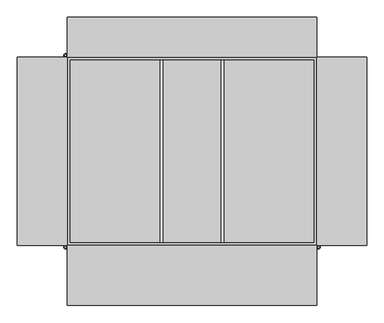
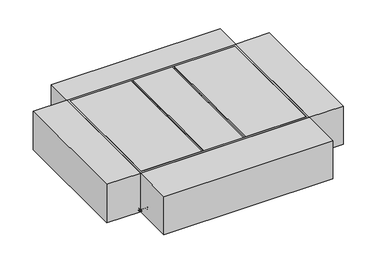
"""IFC4 building model written with IfcOpenShell, lengths in millimetres: proxy geometry, EMC_VEN_CLEVA 2.0_Right_V2 : CLEVA 4000 2.0 Right."""

from ifc_helpers import new_model, si_unit, frame, origin, origin_with_axes, place, context, project, spatial, polyline, circle_curve, ellipse_curve, outline, extrude, faceted_brep, source, transform, mapped, element, save
from ifc_brep_helpers import plane_surface, cylinder_surface, revolved_surface, advanced_brep


def mechanical_equipment_7009f9f1(model_context):
    return source(origin(), model_context, "Body", "SolidModel", [
        advanced_brep(
        [(-1255.9879885, 830.1499884, 32.4276212), (-1274.1500152, 830.1499884, 32.4276212), (-1274.1500152, 830.1499884, 29.4276272), (-1255.9939883, 830.1499884, 29.4276272), (-1252.999994, 830.1499884, 26.4336329), (-1252.999994, 830.1499884, 2.850007), (-1246.9879811, 830.1499884, -3.149981), (-1223.0023908, 830.1499884, -3.149981), (-1223.0023908, 830.1499884, -0.149987), (-1247.9960038, 830.1499884, -0.149987), (-1250.0, 830.1499884, 1.8540092), (-1250.0, 830.1499884, 26.4156337), (-1286.1499912, 842.1499898, 29.4276272), (-1286.1499912, 842.1499898, 32.4276212), (-1286.1499912, 969.1499898, 32.4276212), (-1286.1499912, 969.1499898, 29.4276272), (-1135.1500138, 950.9879885, 32.4276212), (-1135.1500138, 969.1499898, 32.4276212), (-1147.1500152, 981.1499912, 32.4276212), (-1274.1500152, 981.1499912, 32.4276212), (-1255.9879885, 950.9879885, 32.4276212), (-1160.6500136, 972.6500082, 32.4276212), (-1155.6499982, 972.6500082, 32.4276212), (-1155.6619977, 960.6500068, 32.4276212), (-1160.6380141, 960.6500068, 32.4276212), (-1269.8972231, 968.4322052, 32.4276212), (-1261.4119618, 959.9469136, 32.4276212), (-1264.9515195, 956.4073559, 32.4276212), (-1273.4413867, 964.888067, 32.4276212), (-1265.6500068, 855.6379887, 32.4276212), (-1265.6500068, 850.6379987, 32.4276212), (-1277.6499948, 850.6499982, 32.4276212), (-1277.6500082, 855.6499882, 32.4276212), (-1250.0, 945.0, 26.4156337), (-1250.0, 945.0, 1.8540092), (-1247.9960038, 942.9960038, -0.149987), (-1223.0023908, 918.0023908, -0.149987), (-1135.1500138, 918.0023908, -0.149987), (-1135.1500138, 942.9960038, -0.149987), (-1223.0023908, 918.0023908, -3.149981), (-1246.9879811, 941.9879811, -3.149981), (-1135.1500138, 941.9879811, -3.149981), (-1135.1500138, 918.0023908, -3.149981), (-1252.9999806, 947.999994, 2.850007), (-1252.999994, 947.999994, 26.4336329), (-1255.9939883, 950.9939883, 29.4276272), (-1274.1500152, 981.1499912, 29.4276272), (-1147.1500152, 981.1499912, 29.4276272), (-1135.1500138, 969.1499898, 29.4276272), (-1135.1500138, 950.9939883, 29.4276272), (-1160.6380141, 960.6500068, 29.4276272), (-1155.6619977, 960.6500068, 29.4276272), (-1155.6499982, 972.6499948, 29.4276272), (-1160.6500136, 972.6500082, 29.4276272), (-1273.4413867, 964.888067, 29.4276272), (-1264.9515297, 956.4073661, 29.4276272), (-1261.4119618, 959.9469136, 29.4276272), (-1269.8972231, 968.4322052, 29.4276272), (-1277.6500082, 855.6499882, 29.4276272), (-1277.6500082, 850.6499982, 29.4276272), (-1265.6500068, 850.6379987, 29.4276272), (-1265.6500068, 855.6379887, 29.4276272), (-1135.1500138, 947.9999806, 2.850007), (-1135.1500138, 947.999994, 26.4336329), (-1135.1500138, 945.0, 26.4156337), (-1135.1500138, 945.0, 1.8540092)],
        [
            (0, 1),
            (1, 2),
            (2, 3),
            (3, 4, circle_curve(frame((-1255.999988, 830.1499884, 26.4276332), z_axis=(0.0, 1.0, 0.0), x_axis=(1.0, 0.0, 0.0)), 3.0)),
            (4, 5),
            (5, 6, circle_curve(frame((-1246.9999806, 830.1499884, 2.850007), z_axis=(0.0, -1.0, 0.0), x_axis=(1.0, 0.0, 0.0)), 6.0)),
            (6, 7),
            (7, 8),
            (8, 9),
            (9, 10, circle_curve(frame((-1248.000004, 830.1499884, 1.850009), z_axis=(0.0, 1.0, 0.0), x_axis=(1.0, 0.0, 0.0)), 2.0)),
            (10, 11),
            (11, 0, circle_curve(frame((-1255.999988, 830.1499884, 26.4276332), z_axis=(0.0, -1.0, 0.0), x_axis=(1.0, 0.0, 0.0)), 6.0)),
            (12, 13),
            (13, 14),
            (14, 15),
            (15, 12),
            (16, 17),
            (17, 18),
            (18, 19),
            (19, 14),
            (13, 1),
            (0, 20),
            (20, 16),
            (21, 22),
            (22, 23, circle_curve(frame((-1155.6499982, 966.6499948, 32.4276212), z_axis=(0.0, 0.0, -1.0), x_axis=(1.0, 0.0, 0.0)), 6.0)),
            (23, 24),
            (24, 21, circle_curve(frame((-1160.6500136, 966.6499948, 32.4276212), z_axis=(0.0, 0.0, -1.0), x_axis=(1.0, 0.0, 0.0)), 6.0)),
            (25, 26, circle_curve(frame((-1265.6500068, 964.194145, 32.4276212), z_axis=(0.0, 0.0, -1.0), x_axis=(1.0, 0.0, 0.0)), 6.0)),
            (26, 27),
            (27, 28, circle_curve(frame((-1269.1941704, 960.6500068, 32.4276212), z_axis=(0.0, 0.0, -1.0), x_axis=(1.0, 0.0, 0.0)), 6.0)),
            (28, 25),
            (29, 30),
            (30, 31, circle_curve(frame((-1271.6499948, 850.6499982, 32.4276212), z_axis=(0.0, 0.0, -1.0), x_axis=(1.0, 0.0, 0.0)), 6.0)),
            (31, 32),
            (32, 29, circle_curve(frame((-1271.6499948, 855.6499882, 32.4276212), z_axis=(0.0, 0.0, -1.0), x_axis=(1.0, 0.0, 0.0)), 6.0)),
            (11, 33),
            (33, 20, ellipse_curve(frame((-1255.999988, 950.999988, 26.4276332), z_axis=(-0.7071067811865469, -0.707106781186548, 0.0), x_axis=(0.7071067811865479, -0.7071067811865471, 0.0)), 8.4852814, 6.0)),
            (10, 34),
            (34, 33),
            (9, 35),
            (35, 34, ellipse_curve(frame((-1248.000004, 943.000004, 1.850009), z_axis=(0.7071067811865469, 0.707106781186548, 0.0), x_axis=(-0.7071067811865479, 0.7071067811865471, 0.0)), 2.8284271, 2.0)),
            (8, 36),
            (36, 37),
            (37, 38),
            (38, 35),
            (7, 39),
            (39, 36),
            (6, 40),
            (40, 41),
            (41, 42),
            (42, 39),
            (5, 43),
            (43, 40, ellipse_curve(frame((-1246.9999806, 941.9999806, 2.850007), z_axis=(-0.7071067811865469, -0.707106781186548, 0.0), x_axis=(0.7071067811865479, -0.7071067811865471, 0.0)), 8.4852814, 6.0)),
            (4, 44),
            (44, 43),
            (3, 45),
            (45, 44, ellipse_curve(frame((-1255.999988, 950.999988, 26.4276332), z_axis=(0.7071067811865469, 0.707106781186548, 0.0), x_axis=(-0.7071067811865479, 0.7071067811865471, 0.0)), 4.2426407, 3.0)),
            (2, 12),
            (15, 46),
            (46, 47),
            (47, 48),
            (48, 49),
            (49, 45),
            (50, 51),
            (51, 52, circle_curve(frame((-1155.6499982, 966.6499948, 29.4276272), z_axis=(0.0, 0.0, 1.0), x_axis=(1.0, 0.0, 0.0)), 6.0)),
            (52, 53),
            (53, 50, circle_curve(frame((-1160.6500136, 966.6499948, 29.4276272), z_axis=(0.0, 0.0, 1.0), x_axis=(1.0, 0.0, 0.0)), 6.0)),
            (54, 55, circle_curve(frame((-1269.1941704, 960.6500068, 29.4276272), z_axis=(0.0, 0.0, 1.0), x_axis=(1.0, 0.0, 0.0)), 6.0)),
            (55, 56),
            (56, 57, circle_curve(frame((-1265.6500068, 964.194145, 29.4276272), z_axis=(0.0, 0.0, 1.0), x_axis=(1.0, 0.0, 0.0)), 6.0)),
            (57, 54),
            (58, 59),
            (59, 60, circle_curve(frame((-1271.6499948, 850.6499982, 29.4276272), z_axis=(0.0, 0.0, 1.0), x_axis=(1.0, 0.0, 0.0)), 6.0)),
            (60, 61),
            (61, 58, circle_curve(frame((-1271.6499948, 855.6499882, 29.4276272), z_axis=(0.0, 0.0, 1.0), x_axis=(1.0, 0.0, 0.0)), 6.0)),
            (37, 42),
            (41, 62, circle_curve(frame((-1135.1500138, 941.9999806, 2.850007), z_axis=(1.0, 0.0, 0.0), x_axis=(0.0, -1.0, 0.0)), 6.0)),
            (62, 63),
            (63, 49, circle_curve(frame((-1135.1500138, 950.999988, 26.4276332), z_axis=(-1.0, 0.0, 0.0), x_axis=(0.0, -1.0, 0.0)), 3.0)),
            (48, 17),
            (16, 64, circle_curve(frame((-1135.1500138, 950.999988, 26.4276332), z_axis=(1.0, 0.0, 0.0), x_axis=(0.0, -1.0, 0.0)), 6.0)),
            (64, 65),
            (65, 38, circle_curve(frame((-1135.1500138, 943.000004, 1.850009), z_axis=(-1.0, 0.0, 0.0), x_axis=(0.0, -1.0, 0.0)), 2.0)),
            (18, 47),
            (46, 19),
            (33, 64),
            (34, 65),
            (43, 62),
            (44, 63),
            (53, 21),
            (24, 50),
            (52, 22),
            (51, 23),
            (57, 25),
            (28, 54),
            (56, 26),
            (55, 27),
            (61, 29),
            (32, 58),
            (60, 30),
            (59, 31),
        ],
        [
            plane_surface(frame((-1250.0, 830.1499884, 0.0), z_axis=(0.0, -1.0, 0.0), x_axis=(0.0, 0.0, 1.0))),
            plane_surface(frame((-1286.1499912, 830.1499884, 29.4276272), z_axis=(-1.0, 0.0, 0.0), x_axis=(0.0, 1.0, 0.0))),
            plane_surface(frame((-1286.1499912, 830.1499884, 32.4276212), z_axis=(0.0, 0.0, 1.0), x_axis=(0.0, 1.0, 0.0))),
            cylinder_surface(frame((-1255.999988, 830.1499884, 26.4276332), z_axis=(0.0, -1.0, 0.0), x_axis=(1.0, 0.0, 0.0)), 6.0),
            plane_surface(frame((-1250.0, 830.1499884, 26.4156337), z_axis=(1.0, 0.0, 0.0), x_axis=(0.0, 1.0, 0.0))),
            revolved_surface(polyline([(-1246.000004, 945.0000039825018, 1.850009), (-1246.000004, 830.1499884, 1.850009)]), (-1248.000004, 830.1499884, 1.850009), (0.0, 1.0, 0.0)),
            plane_surface(frame((-1247.9960038, 830.1499884, -0.149987), z_axis=(0.0, 0.0, 1.0), x_axis=(0.0, 1.0, 0.0))),
            plane_surface(frame((-1223.0023908, 830.1499884, -0.149987), z_axis=(1.0, 0.0, 0.0), x_axis=(0.0, 1.0, 0.0))),
            plane_surface(frame((-1223.0023908, 830.1499884, -3.149981), z_axis=(0.0, 0.0, -1.0), x_axis=(0.0, 1.0, 0.0))),
            cylinder_surface(frame((-1246.9999806, 830.1499884, 2.850007), z_axis=(0.0, -1.0, 0.0), x_axis=(1.0, 0.0, 0.0)), 6.0),
            plane_surface(frame((-1252.999994, 830.1499884, 2.850007), z_axis=(-1.0, 0.0, 0.0), x_axis=(0.0, 1.0, 0.0))),
            revolved_surface(polyline([(-1252.999988, 953.999988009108, 26.4276332), (-1252.999988, 830.1499884, 26.4276332)]), (-1255.999988, 830.1499884, 26.4276332), (0.0, 1.0, 0.0)),
            plane_surface(frame((-1255.9939883, 830.1499884, 29.4276272), z_axis=(0.0, 0.0, -1.0), x_axis=(0.0, 1.0, 0.0))),
            plane_surface(frame((-1135.1500138, 945.0, 0.0), z_axis=(1.0, 0.0, 0.0), x_axis=(0.0, 0.0, 1.0))),
            plane_surface(frame((-1286.1499912, 981.1499912, 29.4276272), z_axis=(0.0, 1.0, 0.0), x_axis=(1.0, 0.0, 0.0))),
            cylinder_surface(frame((-1250.0, 950.999988, 26.4276332), z_axis=(-1.0, 0.0, 0.0), x_axis=(0.0, -1.0, 0.0)), 6.0),
            plane_surface(frame((-1250.0, 945.0, 26.4156337), z_axis=(0.0, -1.0, 0.0), x_axis=(1.0, 0.0, 0.0))),
            revolved_surface(polyline([(-1135.1500138, 941.000004, 1.850009), (-1250.0000039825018, 941.000004, 1.850009)]), (-1250.0, 943.000004, 1.850009), (1.0, 0.0, 0.0)),
            plane_surface(frame((-1223.0023908, 918.0023908, -0.149987), z_axis=(0.0, -1.0, 0.0), x_axis=(1.0, 0.0, 0.0))),
            cylinder_surface(frame((-1250.0, 941.9999806, 2.850007), z_axis=(-1.0, 0.0, 0.0), x_axis=(0.0, -1.0, 0.0)), 6.0),
            plane_surface(frame((-1252.999994, 947.999994, 2.850007), z_axis=(0.0, 1.0, 0.0), x_axis=(1.0, 0.0, 0.0))),
            revolved_surface(polyline([(-1135.1500138, 947.999988, 26.4276332), (-1258.9999880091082, 947.999988, 26.4276332)]), (-1250.0, 950.999988, 26.4276332), (1.0, 0.0, 0.0)),
            plane_surface(frame((-1286.1499912, 842.1499898, 250.0), z_axis=(-0.7071075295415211, -0.7071060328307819, 0.0), x_axis=(0.0, 0.0, -1.0))),
            plane_surface(frame((-1123.432152, 957.432128, 250.0), z_axis=(0.7071067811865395, 0.7071067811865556, 0.0), x_axis=(0.0, 0.0, -1.0))),
            plane_surface(frame((-1274.1500152, 981.1499912, 250.0), z_axis=(-0.7071075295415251, 0.7071060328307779, 0.0), x_axis=(0.0, 0.0, -1.0))),
            revolved_surface(polyline([(-1154.6500136, 966.6499948, 32.4276212), (-1154.6500136, 966.6499948, 29.4276272)]), (-1160.6500136, 966.6499948, 0.0), (0.0, 0.0, 1.0)),
            plane_surface(frame((-1160.6500136, 972.6500082, 250.0), z_axis=(0.0, -1.0, 0.0), x_axis=(0.0, 0.0, -1.0))),
            revolved_surface(polyline([(-1149.6499982, 966.6499948, 32.4276212), (-1149.6499982, 966.6499948, 29.4276272)]), (-1155.6499982, 966.6499948, 0.0), (0.0, 0.0, 1.0)),
            plane_surface(frame((-1155.6619977, 960.6500068, 250.0), z_axis=(0.0, 1.0, 0.0), x_axis=(0.0, 0.0, -1.0))),
            plane_surface(frame((-1273.4413867, 964.888067, 250.0), z_axis=(0.7071042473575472, -0.7071093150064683, 0.0), x_axis=(0.0, 0.0, -1.0))),
            revolved_surface(polyline([(-1259.6500068, 964.194145, 32.4276212), (-1259.6500068, 964.194145, 29.4276272)]), (-1265.6500068, 964.194145, 0.0), (0.0, 0.0, 1.0)),
            plane_surface(frame((-1261.4119618, 959.9469136, 250.0), z_axis=(-0.7071067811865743, 0.7071067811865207, 0.0), x_axis=(0.0, 0.0, -1.0))),
            revolved_surface(polyline([(-1263.1941704, 960.6500068, 32.4276212), (-1263.1941704, 960.6500068, 29.4276272)]), (-1269.1941704, 960.6500068, 0.0), (0.0, 0.0, 1.0)),
            revolved_surface(polyline([(-1265.6499948, 855.6499882, 32.4276212), (-1265.6499948, 855.6499882, 29.4276272)]), (-1271.6499948, 855.6499882, 0.0), (0.0, 0.0, 1.0)),
            plane_surface(frame((-1265.6500068, 855.6379887, 250.0), z_axis=(-1.0, 0.0, 0.0), x_axis=(0.0, 0.0, -1.0))),
            revolved_surface(polyline([(-1265.6499948, 850.6499982, 32.4276212), (-1265.6499948, 850.6499982, 29.4276272)]), (-1271.6499948, 850.6499982, 0.0), (0.0, 0.0, 1.0)),
            plane_surface(frame((-1277.6500082, 850.6499982, 250.0), z_axis=(1.0, 0.0, 0.0), x_axis=(0.0, 0.0, -1.0))),
        ],
        [
            (0, [[1, 2, 3, 4, 5, 6, 7, 8, 9, 10, 11, 12]]),
            (1, [[13, 14, 15, 16]]),
            (2, [[17, 18, 19, 20, -14, 21, -1, 22, 23], [24, 25, 26, 27], [28, 29, 30, 31], [32, 33, 34, 35]]),
            (3, [[36, 37, -22, -12]]),
            (4, [[38, 39, -36, -11]]),
            (5, [[40, 41, -38, -10]]),
            (6, [[42, 43, 44, 45, -40, -9]]),
            (7, [[46, 47, -42, -8]]),
            (8, [[48, 49, 50, 51, -46, -7]]),
            (9, [[52, 53, -48, -6]]),
            (10, [[54, 55, -52, -5]]),
            (11, [[56, 57, -54, -4]]),
            (12, [[-3, 58, -16, 59, 60, 61, 62, 63, -56], [64, 65, 66, 67], [68, 69, 70, 71], [72, 73, 74, 75]]),
            (13, [[76, -50, 77, 78, 79, -62, 80, -17, 81, 82, 83, -44]]),
            (14, [[84, -60, 85, -19]]),
            (15, [[-37, 86, -81, -23]]),
            (16, [[87, -82, -86, -39]]),
            (17, [[-45, -83, -87, -41]]),
            (18, [[-47, -51, -76, -43]]),
            (19, [[-53, 88, -77, -49]]),
            (20, [[89, -78, -88, -55]]),
            (21, [[-63, -79, -89, -57]]),
            (22, [[-21, -13, -58, -2]]),
            (23, [[-80, -61, -84, -18]]),
            (24, [[-20, -85, -59, -15]]),
            (25, [[-67, 90, -27, 91]]),
            (26, [[-66, 92, -24, -90]]),
            (27, [[-65, 93, -25, -92]]),
            (28, [[-26, -93, -64, -91]]),
            (29, [[-71, 94, -31, 95]]),
            (30, [[-70, 96, -28, -94]]),
            (31, [[-69, 97, -29, -96]]),
            (32, [[-30, -97, -68, -95]]),
            (33, [[-75, 98, -35, 99]]),
            (34, [[-74, 100, -32, -98]]),
            (35, [[-73, 101, -33, -100]]),
            (36, [[-34, -101, -72, -99]]),
        ],
    ),
        advanced_brep(
        [(1255.9879885, -830.1499884, 32.4276212), (1274.1500152, -830.1499884, 32.4276212), (1274.1500152, -830.1499884, 29.4276272), (1255.9939883, -830.1499884, 29.4276272), (1252.999994, -830.1499884, 26.4336329), (1252.999994, -830.1499884, 2.850007), (1246.9879811, -830.1499884, -3.149981), (1223.0023908, -830.1499884, -3.149981), (1223.0023908, -830.1499884, -0.149987), (1247.9960038, -830.1499884, -0.149987), (1250.0, -830.1499884, 1.8540092), (1250.0, -830.1499884, 26.4156337), (1286.1499912, -842.1499898, 29.4276272), (1286.1499912, -842.1499898, 32.4276212), (1286.1499912, -969.1499898, 32.4276212), (1286.1499912, -969.1499898, 29.4276272), (1135.1500138, -950.9879885, 32.4276212), (1135.1500138, -969.1499898, 32.4276212), (1147.1500152, -981.1499912, 32.4276212), (1274.1500152, -981.1499912, 32.4276212), (1255.9879885, -950.9879885, 32.4276212), (1160.6500136, -972.6500082, 32.4276212), (1155.6499982, -972.6500082, 32.4276212), (1155.6619977, -960.6500068, 32.4276212), (1160.6380141, -960.6500068, 32.4276212), (1269.8972231, -968.4322052, 32.4276212), (1261.4119618, -959.9469136, 32.4276212), (1264.9515195, -956.4073559, 32.4276212), (1273.4413867, -964.888067, 32.4276212), (1265.6500068, -855.6379887, 32.4276212), (1265.6500068, -850.6379987, 32.4276212), (1277.6499948, -850.6499982, 32.4276212), (1277.6500082, -855.6499882, 32.4276212), (1250.0, -945.0, 26.4156337), (1250.0, -945.0, 1.8540092), (1247.9960038, -942.9960038, -0.149987), (1223.0023908, -918.0023908, -0.149987), (1135.1500138, -918.0023908, -0.149987), (1135.1500138, -942.9960038, -0.149987), (1223.0023908, -918.0023908, -3.149981), (1246.9879811, -941.9879811, -3.149981), (1135.1500138, -941.9879811, -3.149981), (1135.1500138, -918.0023908, -3.149981), (1252.9999806, -947.999994, 2.850007), (1252.999994, -947.999994, 26.4336329), (1255.9939883, -950.9939883, 29.4276272), (1274.1500152, -981.1499912, 29.4276272), (1147.1500152, -981.1499912, 29.4276272), (1135.1500138, -969.1499898, 29.4276272), (1135.1500138, -950.9939883, 29.4276272), (1160.6380141, -960.6500068, 29.4276272), (1155.6619977, -960.6500068, 29.4276272), (1155.6499982, -972.6499948, 29.4276272), (1160.6500136, -972.6500082, 29.4276272), (1273.4413867, -964.888067, 29.4276272), (1264.9515297, -956.4073661, 29.4276272), (1261.4119618, -959.9469136, 29.4276272), (1269.8972231, -968.4322052, 29.4276272), (1277.6500082, -855.6499882, 29.4276272), (1277.6500082, -850.6499982, 29.4276272), (1265.6500068, -850.6379987, 29.4276272), (1265.6500068, -855.6379887, 29.4276272), (1135.1500138, -947.9999806, 2.850007), (1135.1500138, -947.999994, 26.4336329), (1135.1500138, -945.0, 26.4156337), (1135.1500138, -945.0, 1.8540092)],
        [
            (0, 1),
            (1, 2),
            (2, 3),
            (3, 4, circle_curve(frame((1255.999988, -830.1499884, 26.4276332), z_axis=(0.0, -1.0, 0.0), x_axis=(-1.0, 0.0, 0.0)), 3.0)),
            (4, 5),
            (5, 6, circle_curve(frame((1246.9999806, -830.1499884, 2.850007), z_axis=(0.0, 1.0, 0.0), x_axis=(-1.0, 0.0, 0.0)), 6.0)),
            (6, 7),
            (7, 8),
            (8, 9),
            (9, 10, circle_curve(frame((1248.000004, -830.1499884, 1.850009), z_axis=(0.0, -1.0, 0.0), x_axis=(-1.0, 0.0, 0.0)), 2.0)),
            (10, 11),
            (11, 0, circle_curve(frame((1255.999988, -830.1499884, 26.4276332), z_axis=(0.0, 1.0, 0.0), x_axis=(-1.0, 0.0, 0.0)), 6.0)),
            (12, 13),
            (13, 14),
            (14, 15),
            (15, 12),
            (16, 17),
            (17, 18),
            (18, 19),
            (19, 14),
            (13, 1),
            (0, 20),
            (20, 16),
            (21, 22),
            (22, 23, circle_curve(frame((1155.6499982, -966.6499948, 32.4276212), z_axis=(0.0, 0.0, -1.0), x_axis=(-1.0, 0.0, 0.0)), 6.0)),
            (23, 24),
            (24, 21, circle_curve(frame((1160.6500136, -966.6499948, 32.4276212), z_axis=(0.0, 0.0, -1.0), x_axis=(-1.0, 0.0, 0.0)), 6.0)),
            (25, 26, circle_curve(frame((1265.6500068, -964.194145, 32.4276212), z_axis=(0.0, 0.0, -1.0), x_axis=(-1.0, 0.0, 0.0)), 6.0)),
            (26, 27),
            (27, 28, circle_curve(frame((1269.1941704, -960.6500068, 32.4276212), z_axis=(0.0, 0.0, -1.0), x_axis=(-1.0, 0.0, 0.0)), 6.0)),
            (28, 25),
            (29, 30),
            (30, 31, circle_curve(frame((1271.6499948, -850.6499982, 32.4276212), z_axis=(0.0, 0.0, -1.0), x_axis=(-1.0, 0.0, 0.0)), 6.0)),
            (31, 32),
            (32, 29, circle_curve(frame((1271.6499948, -855.6499882, 32.4276212), z_axis=(0.0, 0.0, -1.0), x_axis=(-1.0, 0.0, 0.0)), 6.0)),
            (11, 33),
            (33, 20, ellipse_curve(frame((1255.999988, -950.999988, 26.4276332), z_axis=(0.7071067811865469, 0.707106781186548, 0.0), x_axis=(-0.7071067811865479, 0.7071067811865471, 0.0)), 8.4852814, 6.0)),
            (10, 34),
            (34, 33),
            (9, 35),
            (35, 34, ellipse_curve(frame((1248.000004, -943.000004, 1.850009), z_axis=(-0.7071067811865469, -0.707106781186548, 0.0), x_axis=(0.7071067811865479, -0.7071067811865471, 0.0)), 2.8284271, 2.0)),
            (8, 36),
            (36, 37),
            (37, 38),
            (38, 35),
            (7, 39),
            (39, 36),
            (6, 40),
            (40, 41),
            (41, 42),
            (42, 39),
            (5, 43),
            (43, 40, ellipse_curve(frame((1246.9999806, -941.9999806, 2.850007), z_axis=(0.7071067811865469, 0.707106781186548, 0.0), x_axis=(-0.7071067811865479, 0.7071067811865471, 0.0)), 8.4852814, 6.0)),
            (4, 44),
            (44, 43),
            (3, 45),
            (45, 44, ellipse_curve(frame((1255.999988, -950.999988, 26.4276332), z_axis=(-0.7071067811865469, -0.707106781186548, 0.0), x_axis=(0.7071067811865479, -0.7071067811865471, 0.0)), 4.2426407, 3.0)),
            (2, 12),
            (15, 46),
            (46, 47),
            (47, 48),
            (48, 49),
            (49, 45),
            (50, 51),
            (51, 52, circle_curve(frame((1155.6499982, -966.6499948, 29.4276272), z_axis=(0.0, 0.0, 1.0), x_axis=(-1.0, 0.0, 0.0)), 6.0)),
            (52, 53),
            (53, 50, circle_curve(frame((1160.6500136, -966.6499948, 29.4276272), z_axis=(0.0, 0.0, 1.0), x_axis=(-1.0, 0.0, 0.0)), 6.0)),
            (54, 55, circle_curve(frame((1269.1941704, -960.6500068, 29.4276272), z_axis=(0.0, 0.0, 1.0), x_axis=(-1.0, 0.0, 0.0)), 6.0)),
            (55, 56),
            (56, 57, circle_curve(frame((1265.6500068, -964.194145, 29.4276272), z_axis=(0.0, 0.0, 1.0), x_axis=(-1.0, 0.0, 0.0)), 6.0)),
            (57, 54),
            (58, 59),
            (59, 60, circle_curve(frame((1271.6499948, -850.6499982, 29.4276272), z_axis=(0.0, 0.0, 1.0), x_axis=(-1.0, 0.0, 0.0)), 6.0)),
            (60, 61),
            (61, 58, circle_curve(frame((1271.6499948, -855.6499882, 29.4276272), z_axis=(0.0, 0.0, 1.0), x_axis=(-1.0, 0.0, 0.0)), 6.0)),
            (37, 42),
            (41, 62, circle_curve(frame((1135.1500138, -941.9999806, 2.850007), z_axis=(-1.0, 0.0, 0.0), x_axis=(0.0, 1.0, 0.0)), 6.0)),
            (62, 63),
            (63, 49, circle_curve(frame((1135.1500138, -950.999988, 26.4276332), z_axis=(1.0, 0.0, 0.0), x_axis=(0.0, 1.0, 0.0)), 3.0)),
            (48, 17),
            (16, 64, circle_curve(frame((1135.1500138, -950.999988, 26.4276332), z_axis=(-1.0, 0.0, 0.0), x_axis=(0.0, 1.0, 0.0)), 6.0)),
            (64, 65),
            (65, 38, circle_curve(frame((1135.1500138, -943.000004, 1.850009), z_axis=(1.0, 0.0, 0.0), x_axis=(0.0, 1.0, 0.0)), 2.0)),
            (18, 47),
            (46, 19),
            (33, 64),
            (34, 65),
            (43, 62),
            (44, 63),
            (53, 21),
            (24, 50),
            (52, 22),
            (51, 23),
            (57, 25),
            (28, 54),
            (56, 26),
            (55, 27),
            (61, 29),
            (32, 58),
            (60, 30),
            (59, 31),
        ],
        [
            plane_surface(frame((1250.0, -830.1499884, 0.0), z_axis=(0.0, 1.0, 0.0), x_axis=(0.0, 0.0, 1.0))),
            plane_surface(frame((1286.1499912, -830.1499884, 29.4276272), z_axis=(1.0, 0.0, 0.0), x_axis=(0.0, -1.0, 0.0))),
            plane_surface(frame((1286.1499912, -830.1499884, 32.4276212), z_axis=(0.0, 0.0, 1.0), x_axis=(0.0, -1.0, 0.0))),
            cylinder_surface(frame((1255.999988, -830.1499884, 26.4276332), z_axis=(0.0, 1.0, 0.0), x_axis=(-1.0, 0.0, 0.0)), 6.0),
            plane_surface(frame((1250.0, -830.1499884, 26.4156337), z_axis=(-1.0, 0.0, 0.0), x_axis=(0.0, -1.0, 0.0))),
            revolved_surface(polyline([(1246.000004, -945.0000039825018, 1.850009), (1246.000004, -830.1499884, 1.850009)]), (1248.000004, -830.1499884, 1.850009), (0.0, -1.0, 0.0)),
            plane_surface(frame((1247.9960038, -830.1499884, -0.149987), z_axis=(0.0, 0.0, 1.0), x_axis=(0.0, -1.0, 0.0))),
            plane_surface(frame((1223.0023908, -830.1499884, -0.149987), z_axis=(-1.0, 0.0, 0.0), x_axis=(0.0, -1.0, 0.0))),
            plane_surface(frame((1223.0023908, -830.1499884, -3.149981), z_axis=(0.0, 0.0, -1.0), x_axis=(0.0, -1.0, 0.0))),
            cylinder_surface(frame((1246.9999806, -830.1499884, 2.850007), z_axis=(0.0, 1.0, 0.0), x_axis=(-1.0, 0.0, 0.0)), 6.0),
            plane_surface(frame((1252.999994, -830.1499884, 2.850007), z_axis=(1.0, 0.0, 0.0), x_axis=(0.0, -1.0, 0.0))),
            revolved_surface(polyline([(1252.999988, -953.999988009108, 26.4276332), (1252.999988, -830.1499884, 26.4276332)]), (1255.999988, -830.1499884, 26.4276332), (0.0, -1.0, 0.0)),
            plane_surface(frame((1255.9939883, -830.1499884, 29.4276272), z_axis=(0.0, 0.0, -1.0), x_axis=(0.0, -1.0, 0.0))),
            plane_surface(frame((1135.1500138, -945.0, 0.0), z_axis=(-1.0, 0.0, 0.0), x_axis=(0.0, 0.0, 1.0))),
            plane_surface(frame((1286.1499912, -981.1499912, 29.4276272), z_axis=(0.0, -1.0, 0.0), x_axis=(-1.0, 0.0, 0.0))),
            cylinder_surface(frame((1250.0, -950.999988, 26.4276332), z_axis=(1.0, 0.0, 0.0), x_axis=(0.0, 1.0, 0.0)), 6.0),
            plane_surface(frame((1250.0, -945.0, 26.4156337), z_axis=(0.0, 1.0, 0.0), x_axis=(-1.0, 0.0, 0.0))),
            revolved_surface(polyline([(1135.1500138, -941.000004, 1.850009), (1250.0000039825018, -941.000004, 1.850009)]), (1250.0, -943.000004, 1.850009), (-1.0, 0.0, 0.0)),
            plane_surface(frame((1223.0023908, -918.0023908, -0.149987), z_axis=(0.0, 1.0, 0.0), x_axis=(-1.0, 0.0, 0.0))),
            cylinder_surface(frame((1250.0, -941.9999806, 2.850007), z_axis=(1.0, 0.0, 0.0), x_axis=(0.0, 1.0, 0.0)), 6.0),
            plane_surface(frame((1252.999994, -947.999994, 2.850007), z_axis=(0.0, -1.0, 0.0), x_axis=(-1.0, 0.0, 0.0))),
            revolved_surface(polyline([(1135.1500138, -947.999988, 26.4276332), (1258.9999880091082, -947.999988, 26.4276332)]), (1250.0, -950.999988, 26.4276332), (-1.0, 0.0, 0.0)),
            plane_surface(frame((1286.1499912, -842.1499898, 250.0), z_axis=(0.7071075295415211, 0.7071060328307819, 0.0), x_axis=(0.0, 0.0, -1.0))),
            plane_surface(frame((1123.432152, -957.432128, 250.0), z_axis=(-0.7071067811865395, -0.7071067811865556, 0.0), x_axis=(0.0, 0.0, -1.0))),
            plane_surface(frame((1274.1500152, -981.1499912, 250.0), z_axis=(0.7071075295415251, -0.7071060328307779, 0.0), x_axis=(0.0, 0.0, -1.0))),
            revolved_surface(polyline([(1154.6500136, -966.6499948, 32.4276212), (1154.6500136, -966.6499948, 29.4276272)]), (1160.6500136, -966.6499948, 0.0), (0.0, 0.0, 1.0)),
            plane_surface(frame((1160.6500136, -972.6500082, 250.0), z_axis=(0.0, 1.0, 0.0), x_axis=(0.0, 0.0, -1.0))),
            revolved_surface(polyline([(1149.6499982, -966.6499948, 32.4276212), (1149.6499982, -966.6499948, 29.4276272)]), (1155.6499982, -966.6499948, 0.0), (0.0, 0.0, 1.0)),
            plane_surface(frame((1155.6619977, -960.6500068, 250.0), z_axis=(0.0, -1.0, 0.0), x_axis=(0.0, 0.0, -1.0))),
            plane_surface(frame((1273.4413867, -964.888067, 250.0), z_axis=(-0.7071042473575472, 0.7071093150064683, 0.0), x_axis=(0.0, 0.0, -1.0))),
            revolved_surface(polyline([(1259.6500068, -964.194145, 32.4276212), (1259.6500068, -964.194145, 29.4276272)]), (1265.6500068, -964.194145, 0.0), (0.0, 0.0, 1.0)),
            plane_surface(frame((1261.4119618, -959.9469136, 250.0), z_axis=(0.7071067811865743, -0.7071067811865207, 0.0), x_axis=(0.0, 0.0, -1.0))),
            revolved_surface(polyline([(1263.1941704, -960.6500068, 32.4276212), (1263.1941704, -960.6500068, 29.4276272)]), (1269.1941704, -960.6500068, 0.0), (0.0, 0.0, 1.0)),
            revolved_surface(polyline([(1265.6499948, -855.6499882, 32.4276212), (1265.6499948, -855.6499882, 29.4276272)]), (1271.6499948, -855.6499882, 0.0), (0.0, 0.0, 1.0)),
            plane_surface(frame((1265.6500068, -855.6379887, 250.0), z_axis=(1.0, 0.0, 0.0), x_axis=(0.0, 0.0, -1.0))),
            revolved_surface(polyline([(1265.6499948, -850.6499982, 32.4276212), (1265.6499948, -850.6499982, 29.4276272)]), (1271.6499948, -850.6499982, 0.0), (0.0, 0.0, 1.0)),
            plane_surface(frame((1277.6500082, -850.6499982, 250.0), z_axis=(-1.0, 0.0, 0.0), x_axis=(0.0, 0.0, -1.0))),
        ],
        [
            (0, [[1, 2, 3, 4, 5, 6, 7, 8, 9, 10, 11, 12]]),
            (1, [[13, 14, 15, 16]]),
            (2, [[17, 18, 19, 20, -14, 21, -1, 22, 23], [24, 25, 26, 27], [28, 29, 30, 31], [32, 33, 34, 35]]),
            (3, [[36, 37, -22, -12]]),
            (4, [[38, 39, -36, -11]]),
            (5, [[40, 41, -38, -10]]),
            (6, [[42, 43, 44, 45, -40, -9]]),
            (7, [[46, 47, -42, -8]]),
            (8, [[48, 49, 50, 51, -46, -7]]),
            (9, [[52, 53, -48, -6]]),
            (10, [[54, 55, -52, -5]]),
            (11, [[56, 57, -54, -4]]),
            (12, [[-3, 58, -16, 59, 60, 61, 62, 63, -56], [64, 65, 66, 67], [68, 69, 70, 71], [72, 73, 74, 75]]),
            (13, [[76, -50, 77, 78, 79, -62, 80, -17, 81, 82, 83, -44]]),
            (14, [[84, -60, 85, -19]]),
            (15, [[-37, 86, -81, -23]]),
            (16, [[87, -82, -86, -39]]),
            (17, [[-45, -83, -87, -41]]),
            (18, [[-47, -51, -76, -43]]),
            (19, [[-53, 88, -77, -49]]),
            (20, [[89, -78, -88, -55]]),
            (21, [[-63, -79, -89, -57]]),
            (22, [[-21, -13, -58, -2]]),
            (23, [[-80, -61, -84, -18]]),
            (24, [[-20, -85, -59, -15]]),
            (25, [[-67, 90, -27, 91]]),
            (26, [[-66, 92, -24, -90]]),
            (27, [[-65, 93, -25, -92]]),
            (28, [[-26, -93, -64, -91]]),
            (29, [[-71, 94, -31, 95]]),
            (30, [[-70, 96, -28, -94]]),
            (31, [[-69, 97, -29, -96]]),
            (32, [[-30, -97, -68, -95]]),
            (33, [[-75, 98, -35, 99]]),
            (34, [[-74, 100, -32, -98]]),
            (35, [[-73, 101, -33, -100]]),
            (36, [[-34, -101, -72, -99]]),
        ],
    ),
        advanced_brep(
        [(-1255.9879885, -830.1499884, 32.4276212), (-1250.0, -830.1499884, 26.4156337), (-1250.0, -830.1499884, 1.8540092), (-1247.9960038, -830.1499884, -0.149987), (-1223.0023908, -830.1499884, -0.149987), (-1223.0023908, -830.1499884, -3.149981), (-1246.9879811, -830.1499884, -3.149981), (-1252.9999806, -830.1499884, 2.850007), (-1252.999994, -830.1499884, 26.4336329), (-1255.9939883, -830.1499884, 29.4276272), (-1274.1500152, -830.1499884, 29.4276272), (-1274.1500152, -830.1499884, 32.4276212), (-1286.1499912, -842.1499898, 29.4276272), (-1286.1499912, -969.1499898, 29.4276272), (-1286.1499912, -969.1499898, 32.4276212), (-1286.1499912, -842.1499898, 32.4276212), (-1135.1500138, -950.9879885, 32.4276212), (-1255.9879885, -950.9879885, 32.4276212), (-1274.1500152, -981.1499912, 32.4276212), (-1147.1500152, -981.1499912, 32.4276212), (-1135.1500138, -969.1499898, 32.4276212), (-1160.6500136, -972.6499948, 32.4276212), (-1160.6380141, -960.6500068, 32.4276212), (-1155.6619977, -960.6500068, 32.4276212), (-1155.6499982, -972.6499948, 32.4276212), (-1269.8972231, -968.4322052, 32.4276212), (-1273.4413867, -964.888067, 32.4276212), (-1264.9515297, -956.4073661, 32.4276212), (-1261.4119618, -959.9469136, 32.4276212), (-1265.6500068, -855.6379887, 32.4276212), (-1277.6499948, -855.6499882, 32.4276212), (-1277.6500082, -850.6499982, 32.4276212), (-1265.6500068, -850.6379987, 32.4276212), (-1250.0, -945.0, 26.4156337), (-1250.0, -945.0, 1.8540092), (-1247.9960038, -942.9960038, -0.149987), (-1135.1500138, -942.9960038, -0.149987), (-1135.1500138, -918.0023908, -0.149987), (-1223.0023908, -918.0023908, -0.149987), (-1223.0023908, -918.0023908, -3.149981), (-1135.1500138, -918.0023908, -3.149981), (-1135.1500138, -941.9879811, -3.149981), (-1246.9879811, -941.9879811, -3.149981), (-1252.9999806, -947.9999806, 2.850007), (-1252.999994, -947.999994, 26.4336329), (-1255.9939883, -950.9939883, 29.4276272), (-1135.1500138, -950.9939883, 29.4276272), (-1135.1500138, -969.1499898, 29.4276272), (-1147.1500152, -981.1499912, 29.4276272), (-1274.1500152, -981.1499912, 29.4276272), (-1160.6380141, -960.6500068, 29.4276272), (-1160.6500136, -972.6499948, 29.4276272), (-1155.6499982, -972.6500082, 29.4276272), (-1155.6619977, -960.6500068, 29.4276272), (-1273.4413867, -964.888067, 29.4276272), (-1269.8972231, -968.4322052, 29.4276272), (-1261.4119618, -959.9469136, 29.4276272), (-1264.9515195, -956.4073559, 29.4276272), (-1277.6499948, -855.6499882, 29.4276272), (-1265.6500068, -855.6379887, 29.4276272), (-1265.6500068, -850.6379987, 29.4276272), (-1277.6499948, -850.6499982, 29.4276272), (-1135.1500138, -945.0, 1.8540092), (-1135.1500138, -945.0, 26.4156337), (-1135.1500138, -947.999994, 26.4336329), (-1135.1500138, -947.999994, 2.850007)],
        [
            (0, 1, circle_curve(frame((-1255.999988, -830.1499884, 26.4276332), z_axis=(0.0, 1.0, 0.0), x_axis=(1.0, 0.0, 0.0)), 6.0)),
            (1, 2),
            (2, 3, circle_curve(frame((-1248.000004, -830.1499884, 1.850009), z_axis=(0.0, -1.0, 0.0), x_axis=(1.0, 0.0, 0.0)), 2.0)),
            (3, 4),
            (4, 5),
            (5, 6),
            (6, 7, circle_curve(frame((-1246.9999806, -830.1499884, 2.850007), z_axis=(0.0, 1.0, 0.0), x_axis=(1.0, 0.0, 0.0)), 6.0)),
            (7, 8),
            (8, 9, circle_curve(frame((-1255.999988, -830.1499884, 26.4276332), z_axis=(0.0, -1.0, 0.0), x_axis=(1.0, 0.0, 0.0)), 3.0)),
            (9, 10),
            (10, 11),
            (11, 0),
            (12, 13),
            (13, 14),
            (14, 15),
            (15, 12),
            (16, 17),
            (17, 0),
            (11, 15),
            (14, 18),
            (18, 19),
            (19, 20),
            (20, 16),
            (21, 22, circle_curve(frame((-1160.6500136, -966.6499948, 32.4276212), z_axis=(0.0, 0.0, -1.0), x_axis=(1.0, 0.0, 0.0)), 6.0)),
            (22, 23),
            (23, 24, circle_curve(frame((-1155.6499982, -966.6499948, 32.4276212), z_axis=(0.0, 0.0, -1.0), x_axis=(1.0, 0.0, 0.0)), 6.0)),
            (24, 21),
            (25, 26),
            (26, 27, circle_curve(frame((-1269.1941704, -960.6500068, 32.4276212), z_axis=(0.0, 0.0, -1.0), x_axis=(1.0, 0.0, 0.0)), 6.0)),
            (27, 28),
            (28, 25, circle_curve(frame((-1265.6500068, -964.194145, 32.4276212), z_axis=(0.0, 0.0, -1.0), x_axis=(1.0, 0.0, 0.0)), 6.0)),
            (29, 30, circle_curve(frame((-1271.6499948, -855.6499882, 32.4276212), z_axis=(0.0, 0.0, -1.0), x_axis=(1.0, 0.0, 0.0)), 6.0)),
            (30, 31),
            (31, 32, circle_curve(frame((-1271.6499948, -850.6499982, 32.4276212), z_axis=(0.0, 0.0, -1.0), x_axis=(1.0, 0.0, 0.0)), 6.0)),
            (32, 29),
            (17, 33, ellipse_curve(frame((-1255.999988, -950.999988, 26.4276332), z_axis=(-0.7071067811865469, 0.707106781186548, 0.0), x_axis=(0.7071067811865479, 0.7071067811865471, 0.0)), 8.4852814, 6.0)),
            (33, 1),
            (33, 34),
            (34, 2),
            (34, 35, ellipse_curve(frame((-1248.000004, -943.000004, 1.850009), z_axis=(0.7071067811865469, -0.707106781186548, 0.0), x_axis=(-0.7071067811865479, -0.7071067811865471, 0.0)), 2.8284271, 2.0)),
            (35, 3),
            (35, 36),
            (36, 37),
            (37, 38),
            (38, 4),
            (38, 39),
            (39, 5),
            (39, 40),
            (40, 41),
            (41, 42),
            (42, 6),
            (42, 43, ellipse_curve(frame((-1246.9999806, -941.9999806, 2.850007), z_axis=(-0.7071067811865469, 0.707106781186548, 0.0), x_axis=(0.7071067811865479, 0.7071067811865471, 0.0)), 8.4852814, 6.0)),
            (43, 7),
            (43, 44),
            (44, 8),
            (44, 45, ellipse_curve(frame((-1255.999988, -950.999988, 26.4276332), z_axis=(0.7071067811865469, -0.707106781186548, 0.0), x_axis=(-0.7071067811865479, -0.7071067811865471, 0.0)), 4.2426407, 3.0)),
            (45, 9),
            (45, 46),
            (46, 47),
            (47, 48),
            (48, 49),
            (49, 13),
            (12, 10),
            (50, 51, circle_curve(frame((-1160.6500136, -966.6499948, 29.4276272), z_axis=(0.0, 0.0, 1.0), x_axis=(1.0, 0.0, 0.0)), 6.0)),
            (51, 52),
            (52, 53, circle_curve(frame((-1155.6499982, -966.6499948, 29.4276272), z_axis=(0.0, 0.0, 1.0), x_axis=(1.0, 0.0, 0.0)), 6.0)),
            (53, 50),
            (54, 55),
            (55, 56, circle_curve(frame((-1265.6500068, -964.194145, 29.4276272), z_axis=(0.0, 0.0, 1.0), x_axis=(1.0, 0.0, 0.0)), 6.0)),
            (56, 57),
            (57, 54, circle_curve(frame((-1269.1941704, -960.6500068, 29.4276272), z_axis=(0.0, 0.0, 1.0), x_axis=(1.0, 0.0, 0.0)), 6.0)),
            (58, 59, circle_curve(frame((-1271.6499948, -855.6499882, 29.4276272), z_axis=(0.0, 0.0, 1.0), x_axis=(1.0, 0.0, 0.0)), 6.0)),
            (59, 60),
            (60, 61, circle_curve(frame((-1271.6499948, -850.6499982, 29.4276272), z_axis=(0.0, 0.0, 1.0), x_axis=(1.0, 0.0, 0.0)), 6.0)),
            (61, 58),
            (36, 62, circle_curve(frame((-1135.1500138, -943.000004, 1.850009), z_axis=(-1.0, 0.0, 0.0), x_axis=(0.0, 1.0, 0.0)), 2.0)),
            (62, 63),
            (63, 16, circle_curve(frame((-1135.1500138, -950.999988, 26.4276332), z_axis=(1.0, 0.0, 0.0), x_axis=(0.0, 1.0, 0.0)), 6.0)),
            (20, 47),
            (46, 64, circle_curve(frame((-1135.1500138, -950.999988, 26.4276332), z_axis=(-1.0, 0.0, 0.0), x_axis=(0.0, 1.0, 0.0)), 3.0)),
            (64, 65),
            (65, 41, circle_curve(frame((-1135.1500138, -941.9999806, 2.850007), z_axis=(1.0, 0.0, 0.0), x_axis=(0.0, 1.0, 0.0)), 6.0)),
            (40, 37),
            (18, 49),
            (48, 19),
            (63, 33),
            (62, 34),
            (65, 43),
            (64, 44),
            (50, 22),
            (21, 51),
            (24, 52),
            (23, 53),
            (54, 26),
            (25, 55),
            (28, 56),
            (27, 57),
            (58, 30),
            (29, 59),
            (32, 60),
            (31, 61),
        ],
        [
            plane_surface(frame((-1250.0, -830.1499884, 0.0), z_axis=(0.0, 1.0, 0.0), x_axis=(0.0, 0.0, 1.0))),
            plane_surface(frame((-1286.1499912, -830.1499884, 29.4276272), z_axis=(-1.0, 0.0, 0.0), x_axis=(0.0, -1.0, 0.0))),
            plane_surface(frame((-1286.1499912, -830.1499884, 32.4276212), z_axis=(0.0, 0.0, 1.0), x_axis=(0.0, -1.0, 0.0))),
            cylinder_surface(frame((-1255.999988, -830.1499884, 26.4276332), z_axis=(0.0, 1.0, 0.0), x_axis=(1.0, 0.0, 0.0)), 6.0),
            plane_surface(frame((-1250.0, -830.1499884, 26.4156337), z_axis=(1.0, 0.0, 0.0), x_axis=(0.0, -1.0, 0.0))),
            revolved_surface(polyline([(-1246.000004, -945.0000039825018, 1.850009), (-1246.000004, -830.1499884, 1.850009)]), (-1248.000004, -830.1499884, 1.850009), (0.0, -1.0, 0.0)),
            plane_surface(frame((-1247.9960038, -830.1499884, -0.149987), z_axis=(0.0, 0.0, 1.0), x_axis=(0.0, -1.0, 0.0))),
            plane_surface(frame((-1223.0023908, -830.1499884, -0.149987), z_axis=(1.0, 0.0, 0.0), x_axis=(0.0, -1.0, 0.0))),
            plane_surface(frame((-1223.0023908, -830.1499884, -3.149981), z_axis=(0.0, 0.0, -1.0), x_axis=(0.0, -1.0, 0.0))),
            cylinder_surface(frame((-1246.9999806, -830.1499884, 2.850007), z_axis=(0.0, 1.0, 0.0), x_axis=(1.0, 0.0, 0.0)), 6.0),
            plane_surface(frame((-1252.999994, -830.1499884, 2.850007), z_axis=(-1.0, 0.0, 0.0), x_axis=(0.0, -1.0, 0.0))),
            revolved_surface(polyline([(-1252.999988, -953.999988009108, 26.4276332), (-1252.999988, -830.1499884, 26.4276332)]), (-1255.999988, -830.1499884, 26.4276332), (0.0, -1.0, 0.0)),
            plane_surface(frame((-1255.9939883, -830.1499884, 29.4276272), z_axis=(0.0, 0.0, -1.0), x_axis=(0.0, -1.0, 0.0))),
            plane_surface(frame((-1135.1500138, -945.0, 0.0), z_axis=(1.0, 0.0, 0.0), x_axis=(0.0, 0.0, 1.0))),
            plane_surface(frame((-1286.1499912, -981.1499912, 29.4276272), z_axis=(0.0, -1.0, 0.0), x_axis=(1.0, 0.0, 0.0))),
            cylinder_surface(frame((-1250.0, -950.999988, 26.4276332), z_axis=(-1.0, 0.0, 0.0), x_axis=(0.0, 1.0, 0.0)), 6.0),
            plane_surface(frame((-1250.0, -945.0, 26.4156337), z_axis=(0.0, 1.0, 0.0), x_axis=(1.0, 0.0, 0.0))),
            revolved_surface(polyline([(-1135.1500138, -941.000004, 1.850009), (-1250.0000039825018, -941.000004, 1.850009)]), (-1250.0, -943.000004, 1.850009), (1.0, 0.0, 0.0)),
            plane_surface(frame((-1223.0023908, -918.0023908, -0.149987), z_axis=(0.0, 1.0, 0.0), x_axis=(1.0, 0.0, 0.0))),
            cylinder_surface(frame((-1250.0, -941.9999806, 2.850007), z_axis=(-1.0, 0.0, 0.0), x_axis=(0.0, 1.0, 0.0)), 6.0),
            plane_surface(frame((-1252.999994, -947.999994, 2.850007), z_axis=(0.0, -1.0, 0.0), x_axis=(1.0, 0.0, 0.0))),
            revolved_surface(polyline([(-1135.1500138, -947.999988, 26.4276332), (-1258.9999880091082, -947.999988, 26.4276332)]), (-1250.0, -950.999988, 26.4276332), (1.0, 0.0, 0.0)),
            plane_surface(frame((-1286.1499912, -842.1499898, 250.0), z_axis=(-0.7071075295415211, 0.7071060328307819, 0.0), x_axis=(0.0, 0.0, -1.0))),
            plane_surface(frame((-1123.432152, -957.432128, 250.0), z_axis=(0.7071067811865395, -0.7071067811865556, 0.0), x_axis=(0.0, 0.0, -1.0))),
            plane_surface(frame((-1274.1500152, -981.1499912, 250.0), z_axis=(-0.7071075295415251, -0.7071060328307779, 0.0), x_axis=(0.0, 0.0, -1.0))),
            revolved_surface(polyline([(-1154.6500136, -966.6499948, 32.4276212), (-1154.6500136, -966.6499948, 29.4276272)]), (-1160.6500136, -966.6499948, 0.0), (0.0, 0.0, 1.0)),
            plane_surface(frame((-1160.6500136, -972.6500082, 250.0), z_axis=(0.0, 1.0, 0.0), x_axis=(0.0, 0.0, -1.0))),
            revolved_surface(polyline([(-1149.6499982, -966.6499948, 32.4276212), (-1149.6499982, -966.6499948, 29.4276272)]), (-1155.6499982, -966.6499948, 0.0), (0.0, 0.0, 1.0)),
            plane_surface(frame((-1155.6619977, -960.6500068, 250.0), z_axis=(0.0, -1.0, 0.0), x_axis=(0.0, 0.0, -1.0))),
            plane_surface(frame((-1273.4413867, -964.888067, 250.0), z_axis=(0.7071042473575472, 0.7071093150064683, 0.0), x_axis=(0.0, 0.0, -1.0))),
            revolved_surface(polyline([(-1259.6500068, -964.194145, 32.4276212), (-1259.6500068, -964.194145, 29.4276272)]), (-1265.6500068, -964.194145, 0.0), (0.0, 0.0, 1.0)),
            plane_surface(frame((-1261.4119618, -959.9469136, 250.0), z_axis=(-0.7071067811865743, -0.7071067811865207, 0.0), x_axis=(0.0, 0.0, -1.0))),
            revolved_surface(polyline([(-1263.1941704, -960.6500068, 32.4276212), (-1263.1941704, -960.6500068, 29.4276272)]), (-1269.1941704, -960.6500068, 0.0), (0.0, 0.0, 1.0)),
            revolved_surface(polyline([(-1265.6499948, -855.6499882, 32.4276212), (-1265.6499948, -855.6499882, 29.4276272)]), (-1271.6499948, -855.6499882, 0.0), (0.0, 0.0, 1.0)),
            plane_surface(frame((-1265.6500068, -855.6379887, 250.0), z_axis=(-1.0, 0.0, 0.0), x_axis=(0.0, 0.0, -1.0))),
            revolved_surface(polyline([(-1265.6499948, -850.6499982, 32.4276212), (-1265.6499948, -850.6499982, 29.4276272)]), (-1271.6499948, -850.6499982, 0.0), (0.0, 0.0, 1.0)),
            plane_surface(frame((-1277.6500082, -850.6499982, 250.0), z_axis=(1.0, 0.0, 0.0), x_axis=(0.0, 0.0, -1.0))),
        ],
        [
            (0, [[1, 2, 3, 4, 5, 6, 7, 8, 9, 10, 11, 12]]),
            (1, [[13, 14, 15, 16]]),
            (2, [[17, 18, -12, 19, -15, 20, 21, 22, 23], [24, 25, 26, 27], [28, 29, 30, 31], [32, 33, 34, 35]]),
            (3, [[-1, -18, 36, 37]]),
            (4, [[-2, -37, 38, 39]]),
            (5, [[-3, -39, 40, 41]]),
            (6, [[-4, -41, 42, 43, 44, 45]]),
            (7, [[-5, -45, 46, 47]]),
            (8, [[-6, -47, 48, 49, 50, 51]]),
            (9, [[-7, -51, 52, 53]]),
            (10, [[-8, -53, 54, 55]]),
            (11, [[-9, -55, 56, 57]]),
            (12, [[-57, 58, 59, 60, 61, 62, -13, 63, -10], [64, 65, 66, 67], [68, 69, 70, 71], [72, 73, 74, 75]]),
            (13, [[-43, 76, 77, 78, -23, 79, -59, 80, 81, 82, -49, 83]]),
            (14, [[-21, 84, -61, 85]]),
            (15, [[-17, -78, 86, -36]]),
            (16, [[-38, -86, -77, 87]]),
            (17, [[-40, -87, -76, -42]]),
            (18, [[-44, -83, -48, -46]]),
            (19, [[-50, -82, 88, -52]]),
            (20, [[-54, -88, -81, 89]]),
            (21, [[-56, -89, -80, -58]]),
            (22, [[-11, -63, -16, -19]]),
            (23, [[-22, -85, -60, -79]]),
            (24, [[-14, -62, -84, -20]]),
            (25, [[90, -24, 91, -64]]),
            (26, [[-91, -27, 92, -65]]),
            (27, [[-92, -26, 93, -66]]),
            (28, [[-90, -67, -93, -25]]),
            (29, [[94, -28, 95, -68]]),
            (30, [[-95, -31, 96, -69]]),
            (31, [[-96, -30, 97, -70]]),
            (32, [[-94, -71, -97, -29]]),
            (33, [[98, -32, 99, -72]]),
            (34, [[-99, -35, 100, -73]]),
            (35, [[-100, -34, 101, -74]]),
            (36, [[-98, -75, -101, -33]]),
        ],
    ),
        extrude(outline(polyline([(1750.0, -945.0), (1250.0, -945.0), (1250.0, 945.0), (1750.0, 945.0), (1750.0, -945.0)])), origin_with_axes(), (0.0, 0.0, 1.0), 599.0),
        extrude(outline(polyline([(-1750.0, 945.0), (-1250.0, 945.0), (-1250.0, -945.0), (-1750.0, -945.0), (-1750.0, 945.0)])), origin_with_axes(), (0.0, 0.0, 1.0), 599.0),
        extrude(outline(polyline([(-1250.0, -1545.0), (-1250.0, -945.0), (1250.0, -945.0), (1250.0, -1545.0), (-1250.0, -1545.0)])), origin_with_axes(), (0.0, 0.0, 1.0), 599.0),
        extrude(outline(polyline([(1250.0, 1345.0), (1250.0, 945.0), (-1250.0, 945.0), (-1250.0, 1345.0), (1250.0, 1345.0)])), origin_with_axes(), (0.0, 0.0, 1.0), 599.0),
        extrude(outline(polyline([(264.0, -945.0), (264.0, -1079.0), (-236.0, -1079.0), (-236.0, -945.0), (264.0, -945.0)])), frame((0.0, 0.0, 293.8), z_axis=(0.0, 0.0, 1.0), x_axis=(1.0, 0.0, 0.0)), (0.0, 0.0, 1.0), 225.0),
        extrude(outline(polyline([(323.0, -945.0), (323.0, -925.0), (1219.0, -925.0), (1219.0, -945.0), (323.0, -945.0)])), frame((0.0, 0.0, 30.5), z_axis=(0.0, 0.0, 1.0), x_axis=(1.0, 0.0, 0.0)), (0.0, 0.0, 1.0), 538.0),
        extrude(outline(polyline([(-323.0, -945.0), (-1219.0, -945.0), (-1219.0, -925.0), (-323.0, -925.0), (-323.0, -945.0)])), frame((0.0, 0.0, 30.5), z_axis=(0.0, 0.0, 1.0), x_axis=(1.0, 0.0, 0.0)), (0.0, 0.0, 1.0), 538.0),
        extrude(outline(polyline([(323.0, 945.0), (1219.0, 945.0), (1219.0, 925.0), (323.0, 925.0), (323.0, 945.0)])), frame((0.0, 0.0, 30.5), z_axis=(0.0, 0.0, 1.0), x_axis=(1.0, 0.0, 0.0)), (0.0, 0.0, 1.0), 538.0),
        extrude(outline(polyline([(-323.0, 945.0), (-323.0, 925.0), (-1219.0, 925.0), (-1219.0, 945.0), (-323.0, 945.0)])), frame((0.0, 0.0, 30.5), z_axis=(0.0, 0.0, 1.0), x_axis=(1.0, 0.0, 0.0)), (0.0, 0.0, 1.0), 538.0),
        extrude(outline(polyline([(-1250.0, 18.0), (-1250.0, 914.0), (-1230.0, 914.0), (-1230.0, 18.0), (-1250.0, 18.0)])), frame((0.0, 0.0, 30.5), z_axis=(0.0, 0.0, 1.0), x_axis=(1.0, 0.0, 0.0)), (0.0, 0.0, 1.0), 538.0),
        extrude(outline(polyline([(-1250.0, -18.0), (-1230.0, -18.0), (-1230.0, -914.0), (-1250.0, -914.0), (-1250.0, -18.0)])), frame((0.0, 0.0, 30.5), z_axis=(0.0, 0.0, 1.0), x_axis=(1.0, 0.0, 0.0)), (0.0, 0.0, 1.0), 538.0),
        extrude(outline(polyline([(1250.0, 18.0), (1230.0, 18.0), (1230.0, 914.0), (1250.0, 914.0), (1250.0, 18.0)])), frame((0.0, 0.0, 30.5), z_axis=(0.0, 0.0, 1.0), x_axis=(1.0, 0.0, 0.0)), (0.0, 0.0, 1.0), 538.0),
        extrude(outline(polyline([(1250.0, -18.0), (1250.0, -914.0), (1230.0, -914.0), (1230.0, -18.0), (1250.0, -18.0)])), frame((0.0, 0.0, 30.5), z_axis=(0.0, 0.0, 1.0), x_axis=(1.0, 0.0, 0.0)), (0.0, 0.0, 1.0), 538.0),
        faceted_brep([(1250.0, 945.0, 599.0), (-1250.0, 945.0, 599.0), (-1250.0, -945.0, 599.0), (1250.0, -945.0, 599.0), (1219.0, -914.0, 599.0), (-1219.0, -914.0, 599.0), (-1219.0, 914.0, 599.0), (1219.0, 914.0, 599.0), (-1219.0, 914.0, 568.5), (-1219.0, 945.0, 568.5), (-323.0, 945.0, 568.5), (-323.0, 914.0, 568.5), (1219.0, 945.0, 568.5), (1219.0, 914.0, 568.5), (323.0, 914.0, 568.5), (323.0, 945.0, 568.5), (-1219.0, -945.0, 568.5), (-1219.0, -914.0, 568.5), (-323.0, -914.0, 568.5), (-323.0, -945.0, 568.5), (1219.0, -914.0, 568.5), (1219.0, -945.0, 568.5), (323.0, -945.0, 568.5), (323.0, -914.0, 568.5), (1250.0, -18.0, 568.5), (1250.0, -914.0, 568.5), (1219.0, -18.0, 568.5), (1250.0, 914.0, 568.5), (1250.0, 18.0, 568.5), (1219.0, 18.0, 568.5), (-1250.0, 18.0, 568.5), (-1250.0, 914.0, 568.5), (-1219.0, 18.0, 568.5), (-1250.0, -914.0, 568.5), (-1250.0, -18.0, 568.5), (-1219.0, -18.0, 568.5), (289.0, 914.0, 568.5), (-289.0, 914.0, 568.5), (-289.0, 945.0, 568.5), (289.0, 945.0, 568.5), (-289.0, -914.0, 568.5), (289.0, -914.0, 568.5), (289.0, -945.0, 568.5), (-289.0, -945.0, 568.5), (1250.0, 945.0, 0.0), (-1250.0, 945.0, 0.0), (323.0, 945.0, 30.5), (1219.0, 945.0, 30.5), (-289.0, 945.0, 30.5), (289.0, 945.0, 30.5), (-1219.0, 945.0, 30.5), (-323.0, 945.0, 30.5), (-1250.0, -945.0, 0.0), (-1250.0, -914.0, 30.5), (-1250.0, -18.0, 30.5), (-1250.0, 914.0, 30.5), (-1250.0, 18.0, 30.5), (1250.0, -945.0, 0.0), (-323.0, -945.0, 30.5), (-1219.0, -945.0, 30.5), (289.0, -945.0, 30.5), (-289.0, -945.0, 30.5), (1219.0, -945.0, 30.5), (323.0, -945.0, 30.5), (1250.0, 914.0, 30.5), (1250.0, 18.0, 30.5), (1250.0, -914.0, 30.5), (1250.0, -18.0, 30.5), (323.0, -914.0, 30.5), (1219.0, -914.0, 30.5), (1219.0, -914.0, 0.0), (-1219.0, -914.0, 0.0), (-1219.0, -914.0, 30.5), (-323.0, -914.0, 30.5), (-289.0, -914.0, 30.5), (289.0, -914.0, 30.5), (-1219.0, -18.0, 30.5), (-1219.0, 914.0, 0.0), (-1219.0, 914.0, 30.5), (-1219.0, 18.0, 30.5), (-323.0, 914.0, 30.5), (1219.0, 914.0, 0.0), (1219.0, 914.0, 30.5), (323.0, 914.0, 30.5), (289.0, 914.0, 30.5), (-289.0, 914.0, 30.5), (1219.0, 18.0, 30.5), (1219.0, -18.0, 30.5)], [[[0, 1, 2, 3], [4, 5, 6, 7]], [[8, 9, 10, 11]], [[12, 13, 14, 15]], [[16, 17, 18, 19]], [[20, 21, 22, 23]], [[24, 25, 20, 26]], [[27, 28, 29, 13]], [[30, 31, 8, 32]], [[33, 34, 35, 17]], [[36, 37, 38, 39]], [[40, 41, 42, 43]], [[1, 0, 44, 45], [12, 15, 46, 47], [39, 38, 48, 49], [9, 50, 51, 10]], [[2, 1, 45, 52], [33, 53, 54, 34], [55, 31, 30, 56]], [[3, 2, 52, 57], [16, 19, 58, 59], [43, 42, 60, 61], [21, 62, 63, 22]], [[0, 3, 57, 44], [27, 64, 65, 28], [66, 25, 24, 67]], [[5, 4, 20, 23, 68, 69, 70, 71, 72, 73, 18, 17], [40, 74, 75, 41]], [[6, 5, 17, 35, 76, 72, 71, 77, 78, 79, 32, 8]], [[7, 6, 8, 11, 80, 78, 77, 81, 82, 83, 14, 13], [36, 84, 85, 37]], [[4, 7, 13, 29, 86, 82, 81, 70, 69, 87, 26, 20]], [[53, 33, 17, 72]], [[50, 9, 8, 78]], [[78, 8, 31, 55]], [[12, 47, 82, 13]], [[72, 17, 16, 59]], [[25, 66, 69, 20]], [[62, 21, 20, 69]], [[64, 27, 13, 82]], [[55, 56, 79, 78]], [[66, 67, 87, 69]], [[75, 74, 61, 60]], [[72, 76, 54, 53]], [[85, 84, 49, 48]], [[82, 86, 65, 64]], [[50, 78, 80, 51]], [[82, 47, 46, 83]], [[72, 59, 58, 73]], [[62, 69, 68, 63]], [[44, 57, 52, 45], [70, 81, 77, 71]], [[32, 79, 56, 30]], [[34, 54, 76, 35]], [[26, 87, 67, 24]], [[86, 29, 28, 65]], [[18, 73, 58, 19]], [[14, 83, 46, 15]], [[48, 38, 37, 85]], [[39, 49, 84, 36]], [[10, 51, 80, 11]], [[74, 40, 43, 61]], [[22, 63, 68, 23]], [[60, 42, 41, 75]]]),
        extrude(outline(polyline([(-323.0, -914.0), (-1219.0, -914.0), (-1219.0, 914.0), (-323.0, 914.0), (-323.0, -914.0)])), frame((0.0, 0.0, 579.0), z_axis=(0.0, 0.0, 1.0), x_axis=(1.0, 0.0, 0.0)), (0.0, 0.0, 1.0), 20.0),
        extrude(outline(polyline([(1219.0, -914.0), (323.0, -914.0), (323.0, 914.0), (1219.0, 914.0), (1219.0, -914.0)])), frame((0.0, 0.0, 579.0), z_axis=(0.0, 0.0, 1.0), x_axis=(1.0, 0.0, 0.0)), (0.0, 0.0, 1.0), 20.0),
        extrude(outline(polyline([(289.0, -914.0), (-289.0, -914.0), (-289.0, 914.0), (289.0, 914.0), (289.0, -914.0)])), frame((0.0, 0.0, 579.0), z_axis=(0.0, 0.0, 1.0), x_axis=(1.0, 0.0, 0.0)), (0.0, 0.0, 1.0), 20.0),
    ])


if __name__ == "__main__":
    model = new_model("IFC4")
    model_context = context("Model", 3, world=origin())
    ifc_project = project(units=[si_unit("LENGTHUNIT", "METRE", prefix="MILLI")], contexts=[model_context])
    site = spatial("IfcSite", under=ifc_project)
    building = spatial("IfcBuilding", under=site)
    placement = place(None, origin())
    mechanical_equipment_shape = mechanical_equipment_7009f9f1(model_context)
    element("IfcBuildingElementProxy", 1, Name="EMC_VEN_CLEVA 2.0_Right_V2 : CLEVA 4000 2.0 Right", ObjectType="EMC_VEN_CLEVA 2.0_Right_V2 : CLEVA 4000 2.0 Right", at=placement, inside=building, context=model_context, shape_type="MappedRepresentation", body=[
        mapped(mechanical_equipment_shape, transform((0.0, 0.0, 0.0), x_axis=(1.0, 0.0, 0.0), y_axis=(0.0, 1.0, 0.0), z_axis=(0.0, 0.0, 1.0))),
    ])
    save(model, "model.ifc")
